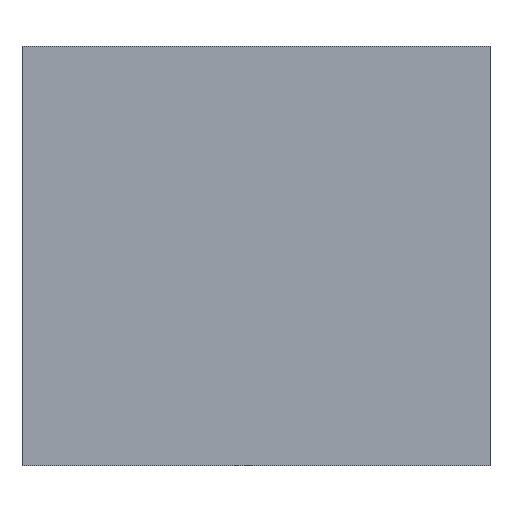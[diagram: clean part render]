
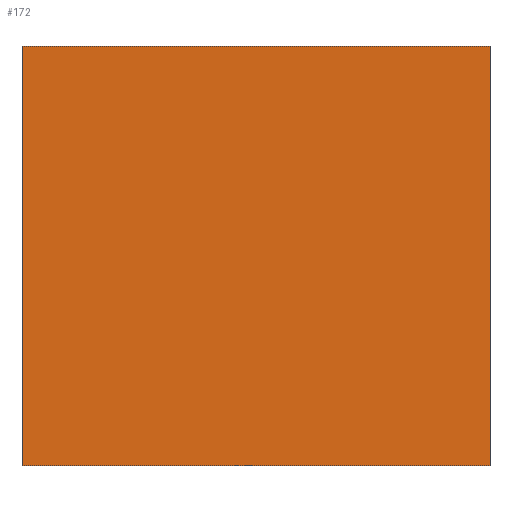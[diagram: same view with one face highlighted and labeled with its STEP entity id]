
A CAD part, front view. The second image highlights one B-rep face of the part: STEP entity #172.
In plain terms, the highlighted planar face has unit normal (0, -1, 0).
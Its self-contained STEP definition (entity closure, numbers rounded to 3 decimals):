
#21 = EDGE_CURVE('',#22,#24,#26,.T.);
#22 = VERTEX_POINT('',#23);
#23 = CARTESIAN_POINT('',(175.,104.,6.));
#24 = VERTEX_POINT('',#25);
#25 = CARTESIAN_POINT('',(175.,104.,66.));
#26 = SURFACE_CURVE('',#27,(#31,#43),.PCURVE_S1.);
#27 = LINE('',#28,#29);
#28 = CARTESIAN_POINT('',(175.,104.,6.));
#29 = VECTOR('',#30,1.);
#30 = DIRECTION('',(0.,0.,1.));
#31 = PCURVE('',#32,#37);
#32 = PLANE('',#33);
#33 = AXIS2_PLACEMENT_3D('',#34,#35,#36);
#34 = CARTESIAN_POINT('',(175.,104.,6.));
#35 = DIRECTION('',(1.,0.,0.));
#36 = DIRECTION('',(0.,0.,1.));
#37 = DEFINITIONAL_REPRESENTATION('',(#38),#42);
#38 = LINE('',#39,#40);
#39 = CARTESIAN_POINT('',(0.,0.));
#40 = VECTOR('',#41,1.);
#41 = DIRECTION('',(1.,0.));
#42 = ( GEOMETRIC_REPRESENTATION_CONTEXT(2) 
PARAMETRIC_REPRESENTATION_CONTEXT() REPRESENTATION_CONTEXT('2D SPACE',''
  ) );
#43 = PCURVE('',#44,#49);
#44 = PLANE('',#45);
#45 = AXIS2_PLACEMENT_3D('',#46,#47,#48);
#46 = CARTESIAN_POINT('',(175.,104.,6.));
#47 = DIRECTION('',(0.,1.,0.));
#48 = DIRECTION('',(0.,0.,1.));
#49 = DEFINITIONAL_REPRESENTATION('',(#50),#54);
#50 = LINE('',#51,#52);
#51 = CARTESIAN_POINT('',(0.,0.));
#52 = VECTOR('',#53,1.);
#53 = DIRECTION('',(1.,0.));
#54 = ( GEOMETRIC_REPRESENTATION_CONTEXT(2) 
PARAMETRIC_REPRESENTATION_CONTEXT() REPRESENTATION_CONTEXT('2D SPACE',''
  ) );
#72 = PLANE('',#73);
#73 = AXIS2_PLACEMENT_3D('',#74,#75,#76);
#74 = CARTESIAN_POINT('',(175.,104.,6.));
#75 = DIRECTION('',(0.,0.,1.));
#76 = DIRECTION('',(1.,0.,0.));
#126 = PLANE('',#127);
#127 = AXIS2_PLACEMENT_3D('',#128,#129,#130);
#128 = CARTESIAN_POINT('',(175.,104.,66.));
#129 = DIRECTION('',(0.,0.,1.));
#130 = DIRECTION('',(1.,0.,0.));
#172 = ADVANCED_FACE('',(#173),#44,.F.);
#173 = FACE_BOUND('',#174,.F.);
#174 = EDGE_LOOP('',(#175,#205,#226,#227));
#175 = ORIENTED_EDGE('',*,*,#176,.F.);
#176 = EDGE_CURVE('',#177,#179,#181,.T.);
#177 = VERTEX_POINT('',#178);
#178 = CARTESIAN_POINT('',(242.,104.,6.));
#179 = VERTEX_POINT('',#180);
#180 = CARTESIAN_POINT('',(242.,104.,66.));
#181 = SURFACE_CURVE('',#182,(#186,#193),.PCURVE_S1.);
#182 = LINE('',#183,#184);
#183 = CARTESIAN_POINT('',(242.,104.,6.));
#184 = VECTOR('',#185,1.);
#185 = DIRECTION('',(0.,0.,1.));
#186 = PCURVE('',#44,#187);
#187 = DEFINITIONAL_REPRESENTATION('',(#188),#192);
#188 = LINE('',#189,#190);
#189 = CARTESIAN_POINT('',(0.,67.));
#190 = VECTOR('',#191,1.);
#191 = DIRECTION('',(1.,0.));
#192 = ( GEOMETRIC_REPRESENTATION_CONTEXT(2) 
PARAMETRIC_REPRESENTATION_CONTEXT() REPRESENTATION_CONTEXT('2D SPACE',''
  ) );
#193 = PCURVE('',#194,#199);
#194 = PLANE('',#195);
#195 = AXIS2_PLACEMENT_3D('',#196,#197,#198);
#196 = CARTESIAN_POINT('',(242.,104.,6.));
#197 = DIRECTION('',(1.,0.,0.));
#198 = DIRECTION('',(0.,0.,1.));
#199 = DEFINITIONAL_REPRESENTATION('',(#200),#204);
#200 = LINE('',#201,#202);
#201 = CARTESIAN_POINT('',(0.,0.));
#202 = VECTOR('',#203,1.);
#203 = DIRECTION('',(1.,0.));
#204 = ( GEOMETRIC_REPRESENTATION_CONTEXT(2) 
PARAMETRIC_REPRESENTATION_CONTEXT() REPRESENTATION_CONTEXT('2D SPACE',''
  ) );
#205 = ORIENTED_EDGE('',*,*,#206,.F.);
#206 = EDGE_CURVE('',#22,#177,#207,.T.);
#207 = SURFACE_CURVE('',#208,(#212,#219),.PCURVE_S1.);
#208 = LINE('',#209,#210);
#209 = CARTESIAN_POINT('',(175.,104.,6.));
#210 = VECTOR('',#211,1.);
#211 = DIRECTION('',(1.,0.,0.));
#212 = PCURVE('',#44,#213);
#213 = DEFINITIONAL_REPRESENTATION('',(#214),#218);
#214 = LINE('',#215,#216);
#215 = CARTESIAN_POINT('',(0.,0.));
#216 = VECTOR('',#217,1.);
#217 = DIRECTION('',(0.,1.));
#218 = ( GEOMETRIC_REPRESENTATION_CONTEXT(2) 
PARAMETRIC_REPRESENTATION_CONTEXT() REPRESENTATION_CONTEXT('2D SPACE',''
  ) );
#219 = PCURVE('',#72,#220);
#220 = DEFINITIONAL_REPRESENTATION('',(#221),#225);
#221 = LINE('',#222,#223);
#222 = CARTESIAN_POINT('',(0.,0.));
#223 = VECTOR('',#224,1.);
#224 = DIRECTION('',(1.,0.));
#225 = ( GEOMETRIC_REPRESENTATION_CONTEXT(2) 
PARAMETRIC_REPRESENTATION_CONTEXT() REPRESENTATION_CONTEXT('2D SPACE',''
  ) );
#226 = ORIENTED_EDGE('',*,*,#21,.T.);
#227 = ORIENTED_EDGE('',*,*,#228,.F.);
#228 = EDGE_CURVE('',#179,#24,#229,.T.);
#229 = SURFACE_CURVE('',#230,(#234,#241),.PCURVE_S1.);
#230 = LINE('',#231,#232);
#231 = CARTESIAN_POINT('',(242.,104.,66.));
#232 = VECTOR('',#233,1.);
#233 = DIRECTION('',(-1.,0.,0.));
#234 = PCURVE('',#44,#235);
#235 = DEFINITIONAL_REPRESENTATION('',(#236),#240);
#236 = LINE('',#237,#238);
#237 = CARTESIAN_POINT('',(60.,67.));
#238 = VECTOR('',#239,1.);
#239 = DIRECTION('',(0.,-1.));
#240 = ( GEOMETRIC_REPRESENTATION_CONTEXT(2) 
PARAMETRIC_REPRESENTATION_CONTEXT() REPRESENTATION_CONTEXT('2D SPACE',''
  ) );
#241 = PCURVE('',#126,#242);
#242 = DEFINITIONAL_REPRESENTATION('',(#243),#247);
#243 = LINE('',#244,#245);
#244 = CARTESIAN_POINT('',(67.,0.));
#245 = VECTOR('',#246,1.);
#246 = DIRECTION('',(-1.,0.));
#247 = ( GEOMETRIC_REPRESENTATION_CONTEXT(2) 
PARAMETRIC_REPRESENTATION_CONTEXT() REPRESENTATION_CONTEXT('2D SPACE',''
  ) );
